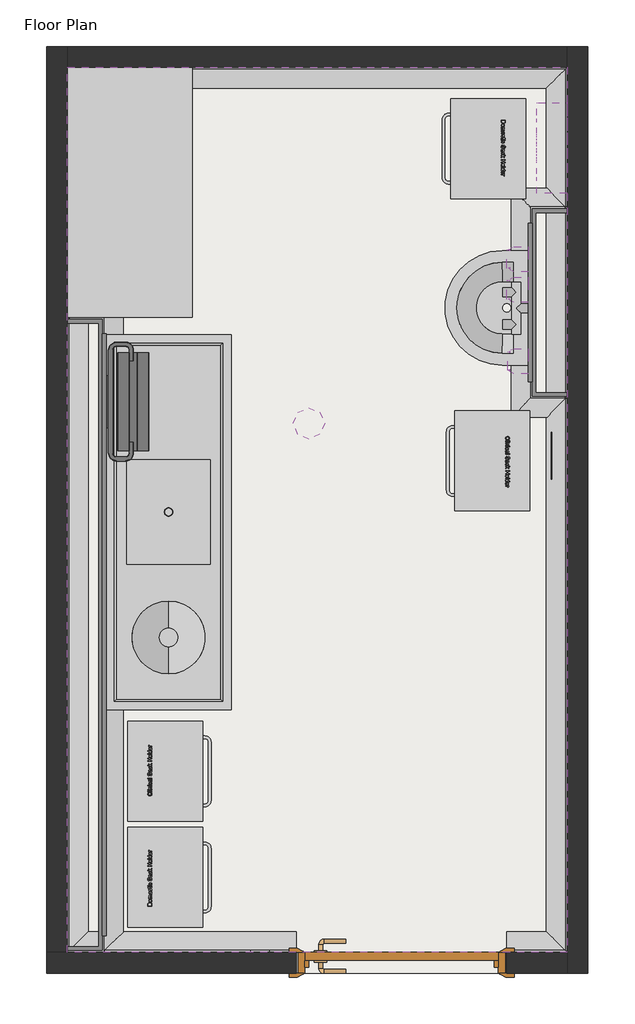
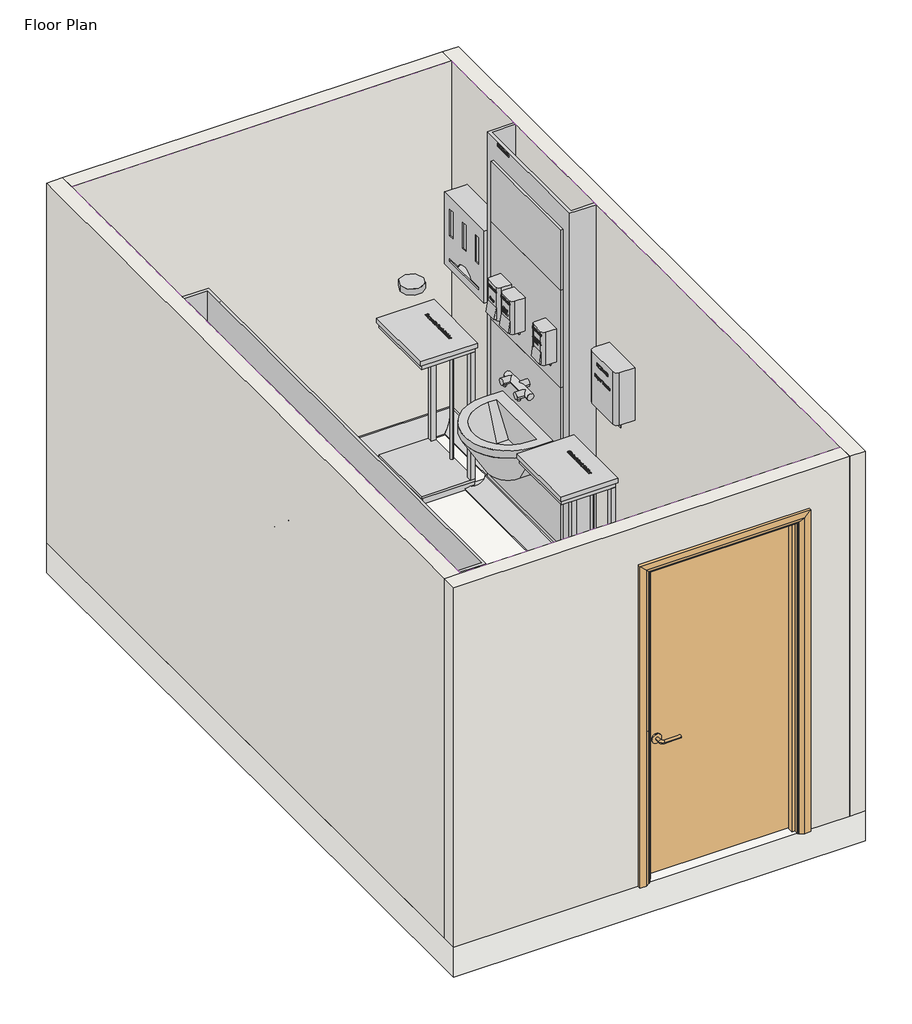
# One storey, incomplete: 10 proxies, 9 furniture elements, 4 walls, 3 flow terminals, 1 covering, 1 door, 1 slab.
"""IFC4 building model written with IfcOpenShell, lengths in millimetres."""

from ifc_helpers import new_model, si_unit, frame, origin, origin_with_axes, place, context, project, spatial, polyline, circle_curve, ellipse_curve, outline, extrude, faceted_brep, transform, mapped, element, save
from ifc_brep_helpers import plane_surface, revolved_surface, advanced_brep
from components import generic_models_8c7842fc, generic_models_abbf64a3, generic_models_1c91f556, generic_models_7e8e4800, bimhealth_electrical_light_switch_v1_type_1_b5e59f8a, bimhealth_electrical_smoke_detector_v1_bimhealth_electrical_fe9fcb6c, door_1010x2110mm_f9eb5fde, flow_terminal_004a381b, flow_terminal_30861e1c, flow_terminal_d119b02e, furniture_7d07dcaf, furniture_f87fb194, furniture_385ba860, furniture_166ce8d1, furniture_26d36cfe, furniture_197fe330, furniture_610823a6

model = new_model("IFC4")

# Units and contexts
model_context = context("Model", 3, world=origin())
ifc_project = project(units=[si_unit("LENGTHUNIT", "METRE", prefix="MILLI")], contexts=[model_context])

# Site, building, storey
site = spatial("IfcSite", under=ifc_project)
building = spatial("IfcBuilding", under=site)
storey = spatial("IfcBuildingStorey", under=building, Name="Floor Plan", Elevation=0.0)

# Proxies
placement = place(None, origin())
element("IfcBuildingElementProxy", 1, Name="Wall Sweeps", at=placement, inside=storey, context=model_context, shape_type="AdvancedBrep", body=[
    advanced_brep(
    [(4505.0, 4665.0, 0.0), (4405.0, 4565.0, 0.0), (4405.0, 4565.0, 10.0), (4495.0, 4655.0, 100.0), (4505.0, 4665.0, 100.0), (4505.0, 415.0, 0.0), (4505.0, 415.0, 100.0), (4495.0, 425.0, 100.0), (4405.0, 515.0, 10.0), (4405.0, 515.0, 0.0)],
    [
        (0, 1),
        (1, 2),
        (2, 3, ellipse_curve(frame((4405.0, 4565.0, 100.0), z_axis=(0.7071067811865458, -0.7071067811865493, 0.0), x_axis=(-0.7071067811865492, -0.7071067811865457, 0.0)), 127.2792206, 90.0)),
        (3, 4),
        (4, 0),
        (5, 6),
        (6, 7),
        (7, 8, ellipse_curve(frame((4405.0, 515.0, 100.0), z_axis=(0.7071067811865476, 0.7071067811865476, 0.0), x_axis=(0.7071067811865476, -0.7071067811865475, 0.0)), 127.2792206, 90.0)),
        (8, 9),
        (9, 5),
        (0, 5),
        (9, 1),
        (8, 2),
        (7, 3),
        (6, 4),
    ],
    [
        plane_surface(frame((4505.0, 4665.0, 304.8), z_axis=(-0.7071067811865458, 0.7071067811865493, 0.0), x_axis=(-0.7071067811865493, -0.7071067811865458, 0.0))),
        plane_surface(frame((4505.0, 415.0, 304.8), z_axis=(-0.7071067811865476, -0.7071067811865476, 0.0), x_axis=(-0.7071067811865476, 0.7071067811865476, 0.0))),
        plane_surface(frame((4505.0, 4665.0, 0.0), z_axis=(0.0, 0.0, -1.0), x_axis=(0.0, -1.0, 0.0))),
        plane_surface(frame((4405.0, 4565.0, 0.0), z_axis=(-1.0, 0.0, 0.0), x_axis=(0.0, -1.0, 0.0))),
        revolved_surface(polyline([(4315.0, 425.0, 100.0), (4315.0, 4655.0, 100.0)]), (4405.0, 4665.0, 100.0), (0.0, -1.0, 0.0)),
        plane_surface(frame((4495.0, 4655.0, 100.0), z_axis=(0.0, 0.0, 1.0), x_axis=(0.0, -1.0, 0.0))),
        plane_surface(frame((4505.0, 4665.0, 100.0), z_axis=(1.0, 0.0, 0.0), x_axis=(0.0, -1.0, 0.0))),
    ],
    [
        (0, [[1, 2, 3, 4, 5]]),
        (1, [[6, 7, 8, 9, 10]]),
        (2, [[-1, 11, -10, 12]]),
        (3, [[-2, -12, -9, 13]]),
        (4, [[-3, -13, -8, 14]]),
        (5, [[-4, -14, -7, 15]]),
        (6, [[-5, -15, -6, -11]]),
    ],
),
])
element("IfcBuildingElementProxy", 2, Name="Wall Sweeps", at=placement, inside=storey, context=model_context, shape_type="AdvancedBrep", body=[
    advanced_brep(
    [(3205.0, 415.0, 0.0), (3205.0, 515.0, 0.0), (3205.0, 515.0, 10.0), (3205.0, 425.0, 100.0), (3205.0, 415.0, 100.0), (2105.0, 415.0, 0.0), (2105.0, 415.0, 100.0), (2115.0, 425.0, 100.0), (2205.0, 515.0, 10.0), (2205.0, 515.0, 0.0)],
    [
        (0, 1),
        (1, 2),
        (2, 3, circle_curve(frame((3205.0, 515.0, 100.0), z_axis=(-1.0, 0.0, 0.0), x_axis=(0.0, 1.0, 0.0)), 90.0)),
        (3, 4),
        (4, 0),
        (5, 6),
        (6, 7),
        (7, 8, ellipse_curve(frame((2205.0, 515.0, 100.0), z_axis=(0.7071067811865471, -0.707106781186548, 0.0), x_axis=(-0.7071067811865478, -0.7071067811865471, 0.0)), 127.2792206, 90.0)),
        (8, 9),
        (9, 5),
        (0, 5),
        (9, 1),
        (8, 2),
        (7, 3),
        (6, 4),
    ],
    [
        plane_surface(frame((3205.0, 415.0, -100.4987562), z_axis=(1.0, 0.0, 0.0), x_axis=(0.0, -1.0, 0.0))),
        plane_surface(frame((2105.0, 415.0, 304.8), z_axis=(-0.7071067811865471, 0.707106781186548, 0.0), x_axis=(0.707106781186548, 0.7071067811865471, 0.0))),
        plane_surface(frame((3205.0, 415.0, 0.0), z_axis=(0.0, 0.0, -1.0), x_axis=(-1.0, 0.0, 0.0))),
        plane_surface(frame((3205.0, 515.0, 0.0), z_axis=(0.0, 1.0, 0.0), x_axis=(-1.0, 0.0, 0.0))),
        revolved_surface(polyline([(2115.0, 605.0, 100.0), (3205.0, 605.0, 100.0)]), (3205.0, 515.0, 100.0), (-1.0, 0.0, 0.0)),
        plane_surface(frame((3205.0, 425.0, 100.0), z_axis=(0.0, 0.0, 1.0), x_axis=(-1.0, 0.0, 0.0))),
        plane_surface(frame((3205.0, 415.0, 100.0), z_axis=(0.0, -1.0, 0.0), x_axis=(-1.0, 0.0, 0.0))),
    ],
    [
        (0, [[1, 2, 3, 4, 5]]),
        (1, [[6, 7, 8, 9, 10]]),
        (2, [[-1, 11, -10, 12]]),
        (3, [[-2, -12, -9, 13]]),
        (4, [[-3, -13, -8, 14]]),
        (5, [[-4, -14, -7, 15]]),
        (6, [[-5, -15, -6, -11]]),
    ],
),
    advanced_brep(
    [(4505.0, 415.0, 0.0), (4405.0, 515.0, 0.0), (4405.0, 515.0, 10.0), (4495.0, 425.0, 100.0), (4505.0, 415.0, 100.0), (4215.0, 415.0, 0.0), (4215.0, 415.0, 100.0), (4215.0, 425.0, 100.0), (4215.0, 515.0, 10.0), (4215.0, 515.0, 0.0)],
    [
        (0, 1),
        (1, 2),
        (2, 3, ellipse_curve(frame((4405.0, 515.0, 100.0), z_axis=(-0.7071067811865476, -0.7071067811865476, 0.0), x_axis=(-0.7071067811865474, 0.7071067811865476, 0.0)), 127.2792206, 90.0)),
        (3, 4),
        (4, 0),
        (5, 6),
        (6, 7),
        (7, 8, circle_curve(frame((4215.0, 515.0, 100.0), z_axis=(1.0, 0.0, 0.0), x_axis=(0.0, 1.0, 0.0)), 90.0)),
        (8, 9),
        (9, 5),
        (0, 5),
        (9, 1),
        (8, 2),
        (7, 3),
        (6, 4),
    ],
    [
        plane_surface(frame((4505.0, 415.0, 304.8), z_axis=(0.7071067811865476, 0.7071067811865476, 0.0), x_axis=(-0.7071067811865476, 0.7071067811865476, 0.0))),
        plane_surface(frame((4215.0, 415.0, -100.4987562), z_axis=(-1.0, 0.0, 0.0), x_axis=(0.0, -1.0, 0.0))),
        plane_surface(frame((4505.0, 415.0, 0.0), z_axis=(0.0, 0.0, -1.0), x_axis=(-1.0, 0.0, 0.0))),
        plane_surface(frame((4405.0, 515.0, 0.0), z_axis=(0.0, 1.0, 0.0), x_axis=(-1.0, 0.0, 0.0))),
        revolved_surface(polyline([(4215.0, 605.0, 100.0), (4495.0, 605.0, 100.0)]), (4505.0, 515.0, 100.0), (-1.0, 0.0, 0.0)),
        plane_surface(frame((4495.0, 425.0, 100.0), z_axis=(0.0, 0.0, 1.0), x_axis=(-1.0, 0.0, 0.0))),
        plane_surface(frame((4505.0, 415.0, 100.0), z_axis=(0.0, -1.0, 0.0), x_axis=(-1.0, 0.0, 0.0))),
    ],
    [
        (0, [[1, 2, 3, 4, 5]]),
        (1, [[6, 7, 8, 9, 10]]),
        (2, [[-1, 11, -10, 12]]),
        (3, [[-2, -12, -9, 13]]),
        (4, [[-3, -13, -8, 14]]),
        (5, [[-4, -14, -7, 15]]),
        (6, [[-5, -15, -6, -11]]),
    ],
),
])
element("IfcBuildingElementProxy", 3, Name="Wall Sweeps", at=placement, inside=storey, context=model_context, shape_type="AdvancedBrep", body=[
    advanced_brep(
    [(2105.0, 415.0, 0.0), (2205.0, 515.0, 0.0), (2205.0, 515.0, 10.0), (2115.0, 425.0, 100.0), (2105.0, 415.0, 100.0), (2105.0, 4665.0, 0.0), (2105.0, 4665.0, 100.0), (2115.0, 4655.0, 100.0), (2205.0, 4565.0, 10.0), (2205.0, 4565.0, 0.0)],
    [
        (0, 1),
        (1, 2),
        (2, 3, ellipse_curve(frame((2205.0, 515.0, 100.0), z_axis=(-0.7071067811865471, 0.707106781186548, 0.0), x_axis=(0.707106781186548, 0.7071067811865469, 0.0)), 127.2792206, 90.0)),
        (3, 4),
        (4, 0),
        (5, 6),
        (6, 7),
        (7, 8, ellipse_curve(frame((2205.0, 4565.0, 100.0), z_axis=(-0.7071067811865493, -0.7071067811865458, 0.0), x_axis=(-0.7071067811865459, 0.7071067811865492, 0.0)), 127.2792206, 90.0)),
        (8, 9),
        (9, 5),
        (0, 5),
        (9, 1),
        (8, 2),
        (7, 3),
        (6, 4),
    ],
    [
        plane_surface(frame((2105.0, 415.0, 304.8), z_axis=(0.7071067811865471, -0.707106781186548, 0.0), x_axis=(0.707106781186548, 0.7071067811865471, 0.0))),
        plane_surface(frame((2105.0, 4665.0, 304.8), z_axis=(0.7071067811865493, 0.7071067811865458, 0.0), x_axis=(0.7071067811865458, -0.7071067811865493, 0.0))),
        plane_surface(frame((2105.0, 415.0, 0.0), z_axis=(0.0, 0.0, -1.0), x_axis=(0.0, 1.0, 0.0))),
        plane_surface(frame((2205.0, 515.0, 0.0), z_axis=(1.0, 0.0, 0.0), x_axis=(0.0, 1.0, 0.0))),
        revolved_surface(polyline([(2295.0, 4655.0, 100.0), (2295.0, 425.0, 100.0)]), (2205.0, 415.0, 100.0), (0.0, 1.0, 0.0)),
        plane_surface(frame((2115.0, 425.0, 100.0), z_axis=(0.0, 0.0, 1.0), x_axis=(0.0, 1.0, 0.0))),
        plane_surface(frame((2105.0, 415.0, 100.0), z_axis=(-1.0, 0.0, 0.0), x_axis=(0.0, 1.0, 0.0))),
    ],
    [
        (0, [[1, 2, 3, 4, 5]]),
        (1, [[6, 7, 8, 9, 10]]),
        (2, [[-1, 11, -10, 12]]),
        (3, [[-2, -12, -9, 13]]),
        (4, [[-3, -13, -8, 14]]),
        (5, [[-4, -14, -7, 15]]),
        (6, [[-5, -15, -6, -11]]),
    ],
),
])
element("IfcBuildingElementProxy", 4, Name="Wall Sweeps", at=placement, inside=storey, context=model_context, shape_type="AdvancedBrep", body=[
    advanced_brep(
    [(2105.0, 4665.0, 0.0), (2205.0, 4565.0, 0.0), (2205.0, 4565.0, 10.0), (2115.0, 4655.0, 100.0), (2105.0, 4665.0, 100.0), (4505.0, 4665.0, 0.0), (4505.0, 4665.0, 100.0), (4495.0, 4655.0, 100.0), (4405.0, 4565.0, 10.0), (4405.0, 4565.0, 0.0)],
    [
        (0, 1),
        (1, 2),
        (2, 3, ellipse_curve(frame((2205.0, 4565.0, 100.0), z_axis=(0.7071067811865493, 0.7071067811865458, 0.0), x_axis=(0.7071067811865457, -0.7071067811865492, 0.0)), 127.2792206, 90.0)),
        (3, 4),
        (4, 0),
        (5, 6),
        (6, 7),
        (7, 8, ellipse_curve(frame((4405.0, 4565.0, 100.0), z_axis=(-0.7071067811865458, 0.7071067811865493, 0.0), x_axis=(0.7071067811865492, 0.7071067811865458, 0.0)), 127.2792206, 90.0)),
        (8, 9),
        (9, 5),
        (0, 5),
        (9, 1),
        (8, 2),
        (7, 3),
        (6, 4),
    ],
    [
        plane_surface(frame((2105.0, 4665.0, 304.8), z_axis=(-0.7071067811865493, -0.7071067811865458, 0.0), x_axis=(0.7071067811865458, -0.7071067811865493, 0.0))),
        plane_surface(frame((4505.0, 4665.0, 304.8), z_axis=(0.7071067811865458, -0.7071067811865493, 0.0), x_axis=(-0.7071067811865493, -0.7071067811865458, 0.0))),
        plane_surface(frame((2105.0, 4665.0, 0.0), z_axis=(0.0, 0.0, -1.0), x_axis=(1.0, 0.0, 0.0))),
        plane_surface(frame((2205.0, 4565.0, 0.0), z_axis=(0.0, -1.0, 0.0), x_axis=(1.0, 0.0, 0.0))),
        revolved_surface(polyline([(4495.0, 4475.0, 100.0), (2115.0, 4475.0, 100.0)]), (2105.0, 4565.0, 100.0), (1.0, 0.0, 0.0)),
        plane_surface(frame((2115.0, 4655.0, 100.0), z_axis=(0.0, 0.0, 1.0), x_axis=(1.0, 0.0, 0.0))),
        plane_surface(frame((2105.0, 4665.0, 100.0), z_axis=(0.0, 1.0, 0.0), x_axis=(1.0, 0.0, 0.0))),
    ],
    [
        (0, [[1, 2, 3, 4, 5]]),
        (1, [[6, 7, 8, 9, 10]]),
        (2, [[-1, 11, -10, 12]]),
        (3, [[-2, -12, -9, 13]]),
        (4, [[-3, -13, -8, 14]]),
        (5, [[-4, -14, -7, 15]]),
        (6, [[-5, -15, -6, -11]]),
    ],
),
])
generic_models_shape = generic_models_8c7842fc(model_context)
element("IfcBuildingElementProxy", 5, Name="BIMHealth-Paper_Towel_Roll-LOD2A-v1 : BIMHealth-Paper_Towel_Roll-LOD2A-v1", ObjectType="BIMHealth-Paper_Towel_Roll-LOD2A-v1 : BIMHealth-Paper_Towel_Roll-LOD2A-v1", at=placement, inside=storey, context=model_context, shape_type="MappedRepresentation", body=[
    mapped(generic_models_shape, transform((2321.0, 3060.0, 0.0), x_axis=(0.0, -1.0, 0.0), y_axis=(1.0, 0.0, 0.0), z_axis=(0.0, 0.0, 1.0))),
])
generic_models_2_shape = generic_models_abbf64a3(model_context)
element("IfcBuildingElementProxy", 6, Name="BIMHealth-Hand_Cream_Dispenser-LOD2A-v1 : BIMHealth-Hand_Cream_Dispenser-LOD2A-v1", ObjectType="BIMHealth-Hand_Cream_Dispenser-LOD2A-v1 : BIMHealth-Hand_Cream_Dispenser-LOD2A-v1", at=placement, inside=storey, context=model_context, shape_type="MappedRepresentation", body=[
    mapped(generic_models_2_shape, transform((4319.0, 3656.8278551, 150.0), x_axis=(0.0, -1.0000000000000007, 0.0), y_axis=(1.0000000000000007, 0.0, 0.0), z_axis=(0.0, 0.0, 1.0))),
])
generic_models_3_shape = generic_models_1c91f556(model_context)
element("IfcBuildingElementProxy", 7, Name="BIMHealth-Worktop-LOD2A-v1 : BIMHealth-Worktop-LOD2A-v1", ObjectType="BIMHealth-Worktop-LOD2A-v1 : BIMHealth-Worktop-LOD2A-v1", at=placement, inside=storey, context=model_context, shape_type="MappedRepresentation", body=[
    mapped(generic_models_3_shape, transform((2105.0, 3465.0, 0.0), x_axis=(0.0, 1.0000000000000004, 0.0), y_axis=(-1.0000000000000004, 0.0, 0.0), z_axis=(0.0, 0.0, 1.0))),
])
generic_models_4_shape = generic_models_7e8e4800(model_context)
element("IfcBuildingElementProxy", 8, Name="BIMHealth-Danicentre_ppe_Dispenser-LOD2A-v1 : BIMHealth-Danicentre_ppe_Dispenser-LOD2A-v1", ObjectType="BIMHealth-Danicentre_ppe_Dispenser-LOD2A-v1 : BIMHealth-Danicentre_ppe_Dispenser-LOD2A-v1", at=placement, inside=storey, context=model_context, shape_type="MappedRepresentation", body=[
    mapped(generic_models_4_shape, transform((4360.0, 4060.0, 0.0), x_axis=(0.0, 1.0000000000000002, 0.0), y_axis=(-1.0000000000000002, 0.0, 0.0), z_axis=(0.0, 0.0, 1.0))),
])
bimhealth_electrical_light_switch_v1_type_1_shape = bimhealth_electrical_light_switch_v1_type_1_b5e59f8a(model_context)
element("IfcBuildingElementProxy", 9, Name="BIMHealth-Electrical-Light_Switch-v1 : Type 1", ObjectType="BIMHealth-Electrical-Light_Switch-v1 : Type 1", at=placement, inside=storey, context=model_context, shape_type="MappedRepresentation", body=[
    mapped(bimhealth_electrical_light_switch_v1_type_1_shape, transform((2860.0, 365.0, -60.0), x_axis=(1.0, 0.0, 0.0), y_axis=(0.0, 1.0, 0.0), z_axis=(0.0, 0.0, 1.0))),
])
bimhealth_electrical_smoke_detector_v1_bimhealth_electrical_shape = bimhealth_electrical_smoke_detector_v1_bimhealth_electrical_fe9fcb6c(model_context)
element("IfcBuildingElementProxy", 10, Name="BIMHealth-Electrical-Smoke_Detector-v1 : BIMHealth-Electrical-Smoke_Detector-v1", ObjectType="BIMHealth-Electrical-Smoke_Detector-v1 : BIMHealth-Electrical-Smoke_Detector-v1", at=placement, inside=storey, context=model_context, shape_type="MappedRepresentation", body=[
    mapped(bimhealth_electrical_smoke_detector_v1_bimhealth_electrical_shape, transform((3265.0, 2955.0, -38.4), x_axis=(1.0, 0.0, 0.0), y_axis=(0.0, 1.0, 0.0), z_axis=(0.0, 0.0, 1.0))),
])

# Covering
element("IfcCovering", 11, ObjectType="BIMHealth - Generic Ceiling", at=placement, inside=storey, context=model_context, shape_type="SweptSolid", body=[
    extrude(outline(polyline([(4505.0, 4665.0), (4505.0, 415.0), (2105.0, 415.0), (2105.0, 4665.0), (4505.0, 4665.0)])), frame((0.0, 0.0, 2400.0), z_axis=(0.0, 0.0, 1.0), x_axis=(1.0, 0.0, 0.0)), (0.0, 0.0, 1.0), 52.0),
])

# Door
door_1010x2110mm_shape = door_1010x2110mm_f9eb5fde(model_context)
element("IfcDoor", 12, ObjectType="BIMHealth-Single_Door-LOD2A-v1 : 1010x2110mm", at=placement, inside=storey, context=model_context, shape_type="MappedRepresentation", body=[
    mapped(door_1010x2110mm_shape, transform((3710.0, 365.0, 0.0), x_axis=(1.0, 0.0, 0.0), y_axis=(0.0, 1.0, 0.0), z_axis=(0.0, 0.0, 1.0))),
])

# Flow terminals
flow_terminal_shape = flow_terminal_004a381b(model_context)
element("IfcFlowTerminal", 13, ObjectType="BIMHealth-Taps_IPS-LOD2A-v1 : BIMHealth-Taps_IPS-LOD2A-v1", at=placement, inside=storey, context=model_context, shape_type="MappedRepresentation", body=[
    mapped(flow_terminal_shape, transform((4260.8456379, 3632.789554, 1022.0), x_axis=(0.0, -1.0000000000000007, 0.0), y_axis=(1.0000000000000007, 0.0, 0.0), z_axis=(0.0, 0.0, 1.0))),
])
flow_terminal_2_shape = flow_terminal_30861e1c(model_context)
element("IfcFlowTerminal", 14, ObjectType="BIMHealth-Wash_basin-LOD2A-v1 : BIMHealth-Wash_basin-LOD2A-v1", at=placement, inside=storey, context=model_context, shape_type="MappedRepresentation", body=[
    mapped(flow_terminal_2_shape, transform((4319.0, 3785.289554, 500.0), x_axis=(0.0, -1.0000000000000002, 0.0), y_axis=(1.0000000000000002, 0.0, 0.0), z_axis=(0.0, 0.0, 1.0))),
])
flow_terminal_3_shape = flow_terminal_d119b02e(model_context)
element("IfcFlowTerminal", 15, ObjectType="BIMHealth-Slop_Hopper-LOD2A-v1 : BIMHealth-Slop_Hopper-LOD2A-v1", at=placement, inside=storey, context=model_context, shape_type="MappedRepresentation", body=[
    mapped(flow_terminal_3_shape, transform((2291.0, 1580.0, 0.0), x_axis=(0.0, 1.0000000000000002, 0.0), y_axis=(-1.0000000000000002, 0.0, 0.0), z_axis=(0.0, 0.0, 1.0))),
])

# Furniture
furniture_shape = furniture_7d07dcaf(model_context)
element("IfcFurniture", 16, ObjectType="BIMHealth-Washstation_Dirty_Utility-LOD2A-v1 : BIMHealth-Washstation_Dirty_Utility-LOD2A-v1", at=placement, inside=storey, context=model_context, shape_type="MappedRepresentation", body=[
    mapped(furniture_shape, transform((2105.0, 2555.0, 0.0), x_axis=(0.0, -1.0000000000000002, 0.0), y_axis=(1.0000000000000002, 0.0, 0.0), z_axis=(0.0, 0.0, 1.0))),
])
furniture_2_shape = furniture_f87fb194(model_context)
element("IfcFurniture", 17, ObjectType="BIMHealth-Washstation-LOD2A-v1 : BIMHealth-Washstation-LOD2A-v1", at=placement, inside=storey, context=model_context, shape_type="MappedRepresentation", body=[
    mapped(furniture_2_shape, transform((4505.0, 3085.289554, 0.0), x_axis=(0.0, -1.0000000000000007, 0.0), y_axis=(1.0000000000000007, 0.0, 0.0), z_axis=(0.0, 0.0, 1.0))),
])
furniture_3_shape = furniture_385ba860(model_context)
element("IfcFurniture", 18, ObjectType="BIMHealth-Alcohol_gel_dispenser-LOD2A-v1 : BIMHealth-Alcohol_gel_dispenser-LOD2A-v1", at=placement, inside=storey, context=model_context, shape_type="MappedRepresentation", body=[
    mapped(furniture_3_shape, transform((4319.0, 3314.532169, 150.0), x_axis=(0.0, -1.0000000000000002, 0.0), y_axis=(1.0000000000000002, 0.0, 0.0), z_axis=(0.0, 0.0, 1.0))),
])
furniture_4_shape = furniture_166ce8d1(model_context)
element("IfcFurniture", 19, ObjectType="BIMHealth-Paper_Towel_Dispenser-LOD2A-v1 : BIMHealth-Paper_Towel_Dispenser-LOD2A-v1", at=placement, inside=storey, context=model_context, shape_type="MappedRepresentation", body=[
    mapped(furniture_4_shape, transform((4505.0, 2940.0, 20.0), x_axis=(0.0, -1.0000000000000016, 0.0), y_axis=(1.0000000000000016, 0.0, 0.0), z_axis=(0.0, 0.0, 1.0))),
])
furniture_5_shape = furniture_26d36cfe(model_context)
element("IfcFurniture", 20, ObjectType="BIMHealth-Soap_Dispenser-LOD2A-v1 : BIMHealth-Soap_Dispenser-LOD2A-v1", at=placement, inside=storey, context=model_context, shape_type="MappedRepresentation", body=[
    mapped(furniture_5_shape, transform((4319.0, 3804.532169, 150.0), x_axis=(0.0, -1.0000000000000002, 0.0), y_axis=(1.0000000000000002, 0.0, 0.0), z_axis=(0.0, 0.0, 1.0))),
])
furniture_6_shape = furniture_197fe330(model_context)
element("IfcFurniture", 21, ObjectType="BIMHealth-Sack_Holder_Domestic-LOD2A-v1 : BIMHealth-Sack_Holder_Domestic-LOD2A-v1", at=placement, inside=storey, context=model_context, shape_type="MappedRepresentation", body=[
    mapped(furniture_6_shape, transform((4285.0, 4495.0, 0.0), x_axis=(0.0, -1.0000000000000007, 0.0), y_axis=(1.0000000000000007, 0.0, 0.0), z_axis=(0.0, 0.0, 1.0))),
])
element("IfcFurniture", 22, ObjectType="BIMHealth-Sack_Holder_Domestic-LOD2A-v1 : BIMHealth-Sack_Holder_Domestic-LOD2A-v1", at=placement, inside=storey, context=model_context, shape_type="MappedRepresentation", body=[
    mapped(furniture_6_shape, transform((2415.0, 555.0, 0.0), x_axis=(0.0, 1.000000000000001, 0.0), y_axis=(-1.000000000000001, 0.0, 0.0), z_axis=(0.0, 0.0, 1.0))),
])
furniture_7_shape = furniture_610823a6(model_context)
element("IfcFurniture", 23, ObjectType="BIMHealth-Sack_Holder_Clinical-LOD2A-v1 : BIMHealth-Sack_Holder_Clinical-LOD2A-v1", at=placement, inside=storey, context=model_context, shape_type="MappedRepresentation", body=[
    mapped(furniture_7_shape, transform((4305.0, 2995.0, 0.0), x_axis=(0.0, -1.0000000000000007, 0.0), y_axis=(1.0000000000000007, 0.0, 0.0), z_axis=(0.0, 0.0, 1.0))),
])
element("IfcFurniture", 24, ObjectType="BIMHealth-Sack_Holder_Clinical-LOD2A-v1 : BIMHealth-Sack_Holder_Clinical-LOD2A-v1", at=placement, inside=storey, context=model_context, shape_type="MappedRepresentation", body=[
    mapped(furniture_7_shape, transform((2415.0, 1065.0, 0.0), x_axis=(0.0, 1.000000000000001, 0.0), y_axis=(-1.000000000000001, 0.0, 0.0), z_axis=(0.0, 0.0, 1.0))),
])

# Slab
element("IfcSlab", 25, ObjectType="BIMHealth - Generic Floor", at=placement, inside=storey, context=model_context, shape_type="SweptSolid", body=[
    extrude(outline(polyline([(4605.0, 4765.0), (4605.0, 315.0), (2005.0, 315.0), (2005.0, 4765.0), (4605.0, 4765.0)])), frame((0.0, 0.0, -200.0), z_axis=(0.0, 0.0, 1.0), x_axis=(1.0, 0.0, 0.0)), (0.0, 0.0, 1.0), 200.0),
])

# Walls
element("IfcWall", 26, ObjectType="BIMHealth - Generic Wall", at=placement, inside=storey, context=model_context, shape_type="Brep", body=[
    faceted_brep([(4505.0, 4765.0, 0.0), (4505.0, 4665.0, 0.0), (4505.0, 415.0, 0.0), (4505.0, 315.0, 0.0), (4505.0, 315.0, 2400.0), (4505.0, 415.0, 2400.0), (4505.0, 4665.0, 2400.0), (4505.0, 4765.0, 2400.0), (4605.0, 4765.0, 0.0), (4605.0, 4765.0, 2400.0), (4605.0, 315.0, 2400.0), (4605.0, 315.0, 0.0)], [[[0, 1, 2, 3, 4, 5, 6, 7]], [[8, 9, 10, 11]], [[3, 2, 1, 0, 8, 11]], [[7, 6, 5, 4, 10, 9]], [[4, 3, 11, 10]], [[0, 7, 9, 8]]]),
])
element("IfcWall", 27, ObjectType="BIMHealth - Generic Wall", at=placement, inside=storey, context=model_context, shape_type="Brep", body=[
    faceted_brep([(2005.0, 415.0, 2400.0), (2105.0, 415.0, 2400.0), (4505.0, 415.0, 2400.0), (4505.0, 415.0, 0.0), (4215.0, 415.0, 0.0), (4215.0, 415.0, 100.0), (4215.0, 415.0, 2110.0), (3205.0, 415.0, 2110.0), (3205.0, 415.0, 100.0), (3205.0, 415.0, 0.0), (2105.0, 415.0, 0.0), (2005.0, 415.0, 0.0), (4505.0, 315.0, 2400.0), (2005.0, 315.0, 2400.0), (2005.0, 315.0, 0.0), (3205.0, 315.0, 0.0), (3205.0, 315.0, 2110.0), (4215.0, 315.0, 2110.0), (4215.0, 315.0, 0.0), (4505.0, 315.0, 0.0)], [[[0, 1, 2, 3, 4, 5, 6, 7, 8, 9, 10, 11]], [[12, 13, 14, 15, 16, 17, 18, 19]], [[3, 19, 18, 4]], [[14, 11, 10, 9, 15]], [[2, 1, 0, 13, 12]], [[3, 2, 12, 19]], [[0, 11, 14, 13]], [[17, 6, 5, 4, 18]], [[6, 17, 16, 7]], [[7, 16, 15, 9, 8]]]),
])
element("IfcWall", 28, ObjectType="BIMHealth - Generic Wall", at=placement, inside=storey, context=model_context, shape_type="Brep", body=[
    faceted_brep([(2105.0, 415.0, 0.0), (2105.0, 4665.0, 0.0), (2105.0, 4765.0, 0.0), (2105.0, 4765.0, 2400.0), (2105.0, 4665.0, 2400.0), (2105.0, 415.0, 2400.0), (2005.0, 415.0, 0.0), (2005.0, 415.0, 2400.0), (2005.0, 4765.0, 2400.0), (2005.0, 4765.0, 0.0)], [[[0, 1, 2, 3, 4, 5]], [[6, 7, 8, 9]], [[2, 1, 0, 6, 9]], [[5, 4, 3, 8, 7]], [[0, 5, 7, 6]], [[3, 2, 9, 8]]]),
])
element("IfcWall", 29, ObjectType="BIMHealth - Generic Wall", at=placement, inside=storey, context=model_context, shape_type="SweptSolid", body=[
    extrude(outline(polyline([(4505.0, 4665.0), (2105.0, 4665.0), (2105.0, 4765.0), (4505.0, 4765.0), (4505.0, 4665.0)])), origin_with_axes(), (0.0, 0.0, 1.0), 2400.0),
])

save(model, "model.ifc")
